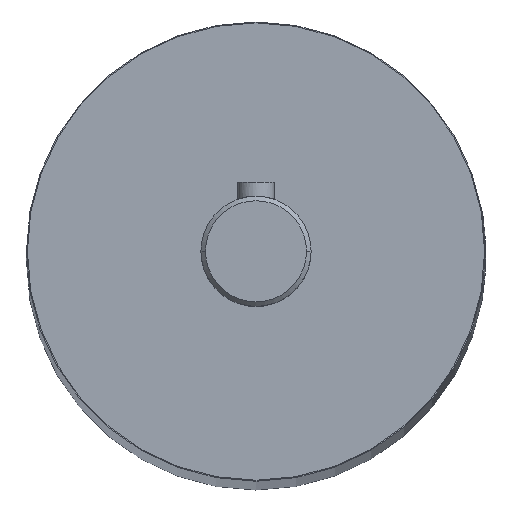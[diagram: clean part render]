
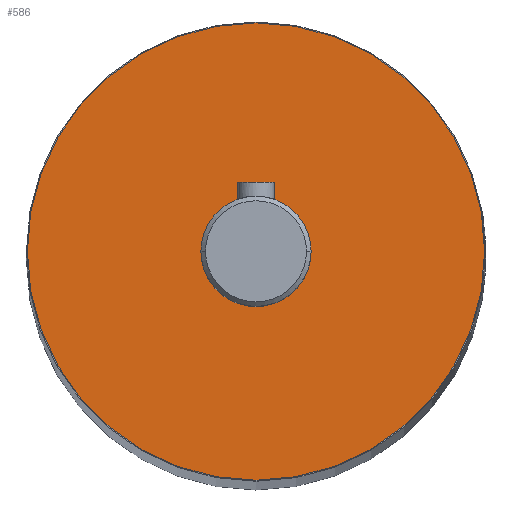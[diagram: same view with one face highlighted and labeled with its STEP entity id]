
A CAD part, top view. The second image highlights one B-rep face of the part: STEP entity #586.
In plain terms, the highlighted planar face has unit normal (0, 0, 1).
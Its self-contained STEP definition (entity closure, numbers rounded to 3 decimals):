
#79 = DIRECTION ( 'NONE',  ( 0., 0., 1. ) ) ;
#118 = CARTESIAN_POINT ( 'NONE',  ( 0., 0., 277.5 ) ) ;
#200 = FACE_OUTER_BOUND ( 'NONE', #1573, .T. ) ;
#206 = AXIS2_PLACEMENT_3D ( 'NONE', #1807, #1069, #1817 ) ;
#245 = DIRECTION ( 'NONE',  ( 1., 0., 0. ) ) ;
#268 = CIRCLE ( 'NONE', #1298, 24.9 ) ;
#360 = CARTESIAN_POINT ( 'NONE',  ( 0., 0., 277.5 ) ) ;
#554 = CARTESIAN_POINT ( 'NONE',  ( 0., 0., 277.5 ) ) ;
#561 = DIRECTION ( 'NONE',  ( 0., 0., 1. ) ) ;
#575 = CIRCLE ( 'NONE', #1594, 6. ) ;
#586 = ADVANCED_FACE ( 'NONE', ( #948, #200 ), #1552, .T. ) ;
#603 = EDGE_CURVE ( 'NONE', #1388, #1242, #268, .T. ) ;
#630 = ORIENTED_EDGE ( 'NONE', *, *, #1651, .F. ) ;
#637 = AXIS2_PLACEMENT_3D ( 'NONE', #683, #79, #1738 ) ;
#648 = CARTESIAN_POINT ( 'NONE',  ( 24.9, 0., 277.5 ) ) ;
#683 = CARTESIAN_POINT ( 'NONE',  ( 0., 0., 277.5 ) ) ;
#707 = CARTESIAN_POINT ( 'NONE',  ( -6., 0., 277.5 ) ) ;
#719 = DIRECTION ( 'NONE',  ( 1., 0., 0. ) ) ;
#919 = ORIENTED_EDGE ( 'NONE', *, *, #1442, .F. ) ;
#948 = FACE_BOUND ( 'NONE', #1881, .T. ) ;
#1043 = VERTEX_POINT ( 'NONE', #707 ) ;
#1069 = DIRECTION ( 'NONE',  ( 0., 0., 1. ) ) ;
#1086 = EDGE_CURVE ( 'NONE', #1242, #1388, #1657, .T. ) ;
#1242 = VERTEX_POINT ( 'NONE', #648 ) ;
#1298 = AXIS2_PLACEMENT_3D ( 'NONE', #360, #1590, #1728 ) ;
#1344 = ORIENTED_EDGE ( 'NONE', *, *, #603, .T. ) ;
#1388 = VERTEX_POINT ( 'NONE', #1626 ) ;
#1442 = EDGE_CURVE ( 'NONE', #1536, #1043, #1531, .T. ) ;
#1531 = CIRCLE ( 'NONE', #637, 6. ) ;
#1536 = VERTEX_POINT ( 'NONE', #1870 ) ;
#1552 = PLANE ( 'NONE',  #1574 ) ;
#1573 = EDGE_LOOP ( 'NONE', ( #1344, #1867 ) ) ;
#1574 = AXIS2_PLACEMENT_3D ( 'NONE', #554, #1913, #245 ) ;
#1590 = DIRECTION ( 'NONE',  ( 0., 0., 1. ) ) ;
#1594 = AXIS2_PLACEMENT_3D ( 'NONE', #118, #561, #719 ) ;
#1626 = CARTESIAN_POINT ( 'NONE',  ( -24.9, 0., 277.5 ) ) ;
#1651 = EDGE_CURVE ( 'NONE', #1043, #1536, #575, .T. ) ;
#1657 = CIRCLE ( 'NONE', #206, 24.9 ) ;
#1728 = DIRECTION ( 'NONE',  ( 1., 0., 0. ) ) ;
#1738 = DIRECTION ( 'NONE',  ( 1., 0., 0. ) ) ;
#1807 = CARTESIAN_POINT ( 'NONE',  ( 0., 0., 277.5 ) ) ;
#1817 = DIRECTION ( 'NONE',  ( 1., 0., 0. ) ) ;
#1867 = ORIENTED_EDGE ( 'NONE', *, *, #1086, .T. ) ;
#1870 = CARTESIAN_POINT ( 'NONE',  ( 6., 0., 277.5 ) ) ;
#1881 = EDGE_LOOP ( 'NONE', ( #630, #919 ) ) ;
#1913 = DIRECTION ( 'NONE',  ( 0., 0., 1. ) ) ;
